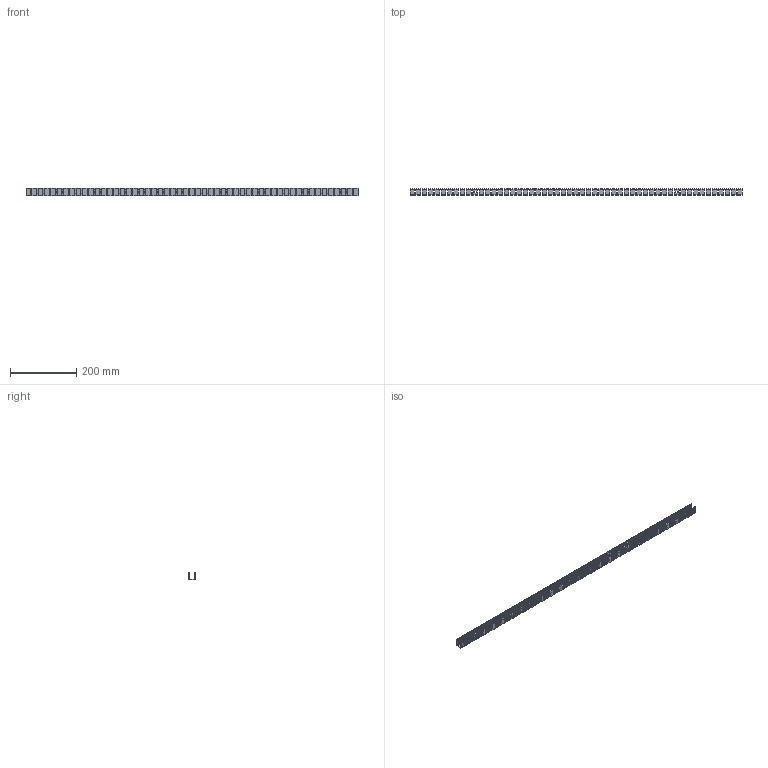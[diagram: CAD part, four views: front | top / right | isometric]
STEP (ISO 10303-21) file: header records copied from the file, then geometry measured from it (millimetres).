
FILE_DESCRIPTION(/* description */ (''),/* implementation_level */ '2;1');
FILE_NAME(/* name */ 'LF_SILICONE_CURVED_PROFILE_SIDE_BEND_L1000_R01.step',/* time_stamp */ '2026-08-19T12:10:57+02:00',/* author */ (''),/* organization */ (''),/* preprocessor_version */ 'ST-DEVELOPER v20.1',/* originating_system */ 'Autodesk Translation Framework v15.8.0.0',/* authorisation */ '');
FILE_SCHEMA (('AUTOMOTIVE_DESIGN { 1 0 10303 214 3 1 1 }'));
Length unit declared in the file: millimetre
Products named in the file (1): 2026-08-18-10-59-34-118
Bounding box: 1000 x 20.2 x 23.2 mm (x, y, z)
Volume: 61488.9 mm3; surface area: 126026.6 mm2
Topology: 1 solids, 1 shells, 1822 faces, 5460 edges, 3640 vertices
Faces by surface type: plane 1334, cylinder 488
Entity records: 61309 total; most frequent: CARTESIAN_POINT 10923, ORIENTED_EDGE 10920, DIRECTION 10290, EDGE_CURVE 5460, LINE 4276, VECTOR 4276, VERTEX_POINT 3640, AXIS2_PLACEMENT_3D 3007
